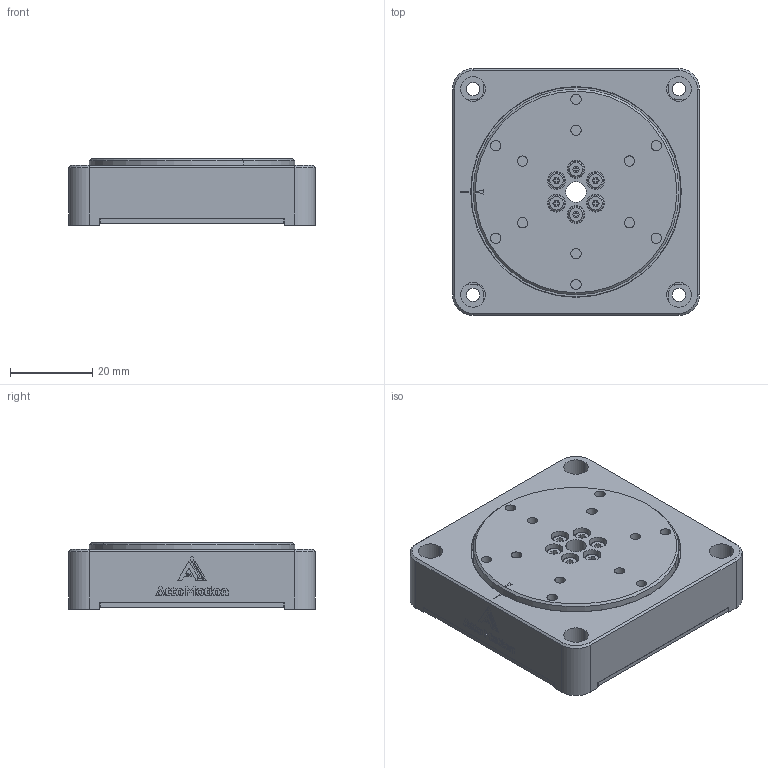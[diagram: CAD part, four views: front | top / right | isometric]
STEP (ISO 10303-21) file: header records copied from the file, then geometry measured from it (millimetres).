
FILE_DESCRIPTION (( 'STEP AP214' ), '1' );
FILE_NAME ('ZT1050-001A詢儕僅唅蛌怢NH-R1-50C ver0.3.STEP', '2023-09-12T10:13:45', ( '' ), ( '' ), 'SwSTEP 2.0', 'SolidWorks 2021', '' );
FILE_SCHEMA (( 'AUTOMOTIVE_DESIGN' ));
Length unit declared in the file: millimetre
Products named in the file (1): ZT1050-001A詢儕僅唅蛌怢NH-R1-50C ver0.3
Bounding box: 60 x 60 x 16.1 mm (x, y, z)
Surface area: 18096.3 mm2 (no closed solid volume)
Topology: 0 solids, 39 shells, 336 faces, 1924 edges, 1613 vertices
Faces by surface type: plane 181, cylinder 117, cone 22, torus 14, bspline 2
Entity records: 23821 total; most frequent: CARTESIAN_POINT 6062, DIRECTION 2599, ORIENTED_EDGE 2545, EDGE_CURVE 1924, VERTEX_POINT 1613, LINE 1075, VECTOR 1075, AXIS2_PLACEMENT_3D 762
